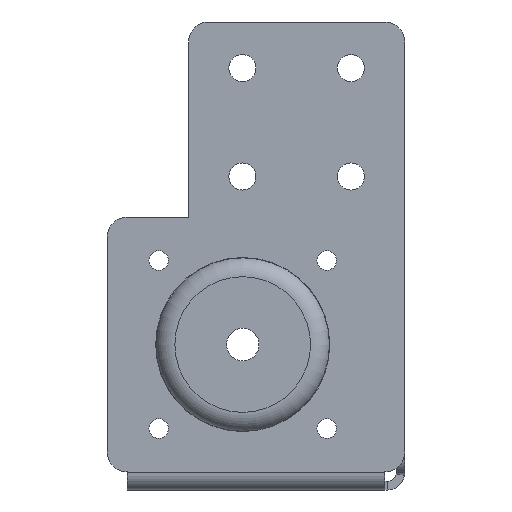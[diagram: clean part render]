
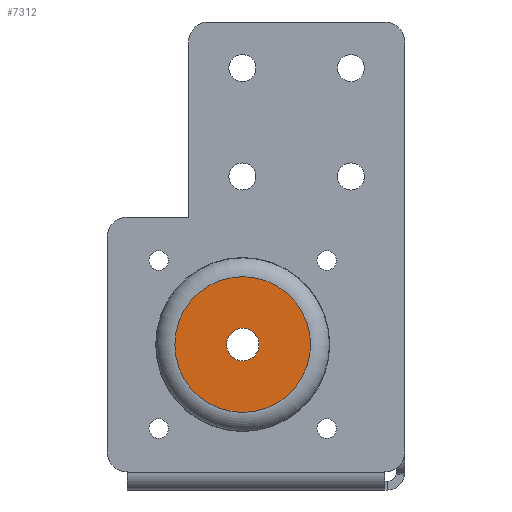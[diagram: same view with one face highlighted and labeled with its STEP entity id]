
A CAD part, left-side view. The second image highlights one B-rep face of the part: STEP entity #7312.
In plain terms, the highlighted planar face has unit normal (-1, 0, 0).
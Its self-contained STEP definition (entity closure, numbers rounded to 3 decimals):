
#7312 = ADVANCED_FACE('',(#7313,#7381),#7328,.T.);
#7313 = FACE_BOUND('',#7314,.T.);
#7314 = EDGE_LOOP('',(#7315,#7355));
#7315 = ORIENTED_EDGE('',*,*,#7316,.F.);
#7316 = EDGE_CURVE('',#7317,#7319,#7321,.T.);
#7317 = VERTEX_POINT('',#7318);
#7318 = CARTESIAN_POINT('',(-14.2,74.6,39.347));
#7319 = VERTEX_POINT('',#7320);
#7320 = CARTESIAN_POINT('',(-14.2,74.6,14.313));
#7321 = SURFACE_CURVE('',#7322,(#7327,#7343),.PCURVE_S1.);
#7322 = CIRCLE('',#7323,12.517);
#7323 = AXIS2_PLACEMENT_3D('',#7324,#7325,#7326);
#7324 = CARTESIAN_POINT('',(-14.2,74.6,26.83));
#7325 = DIRECTION('',(1.,0.,0.));
#7326 = DIRECTION('',(0.,0.,-1.));
#7327 = PCURVE('',#7328,#7333);
#7328 = PLANE('',#7329);
#7329 = AXIS2_PLACEMENT_3D('',#7330,#7331,#7332);
#7330 = CARTESIAN_POINT('',(-14.2,74.6,12.48));
#7331 = DIRECTION('',(-1.,0.,0.));
#7332 = DIRECTION('',(0.,0.,1.));
#7333 = DEFINITIONAL_REPRESENTATION('',(#7334),#7342);
#7334 = ( BOUNDED_CURVE() B_SPLINE_CURVE(2,(#7335,#7336,#7337,#7338,
#7339,#7340,#7341),.UNSPECIFIED.,.T.,.F.) B_SPLINE_CURVE_WITH_KNOTS((1,2
    ,2,2,2,1),(-2.094,0.,2.094,4.189,
6.283,8.378),.UNSPECIFIED.) CURVE() 
GEOMETRIC_REPRESENTATION_ITEM() RATIONAL_B_SPLINE_CURVE((1.,0.5,1.,0.5,
1.,0.5,1.)) REPRESENTATION_ITEM('') );
#7335 = CARTESIAN_POINT('',(1.833,0.));
#7336 = CARTESIAN_POINT('',(1.833,21.681));
#7337 = CARTESIAN_POINT('',(20.609,10.84));
#7338 = CARTESIAN_POINT('',(39.385,0.));
#7339 = CARTESIAN_POINT('',(20.609,-10.84));
#7340 = CARTESIAN_POINT('',(1.833,-21.681));
#7341 = CARTESIAN_POINT('',(1.833,0.));
#7342 = ( GEOMETRIC_REPRESENTATION_CONTEXT(2) 
PARAMETRIC_REPRESENTATION_CONTEXT() REPRESENTATION_CONTEXT('2D SPACE',''
  ) );
#7343 = PCURVE('',#7344,#7349);
#7344 = TOROIDAL_SURFACE('',#7345,12.517,3.6);
#7345 = AXIS2_PLACEMENT_3D('',#7346,#7347,#7348);
#7346 = CARTESIAN_POINT('',(-10.6,74.6,26.83));
#7347 = DIRECTION('',(1.,0.,0.));
#7348 = DIRECTION('',(0.,0.,-1.));
#7349 = DEFINITIONAL_REPRESENTATION('',(#7350),#7354);
#7350 = LINE('',#7351,#7352);
#7351 = CARTESIAN_POINT('',(-6.283,4.712));
#7352 = VECTOR('',#7353,1.);
#7353 = DIRECTION('',(1.,0.));
#7354 = ( GEOMETRIC_REPRESENTATION_CONTEXT(2) 
PARAMETRIC_REPRESENTATION_CONTEXT() REPRESENTATION_CONTEXT('2D SPACE',''
  ) );
#7355 = ORIENTED_EDGE('',*,*,#7356,.F.);
#7356 = EDGE_CURVE('',#7319,#7317,#7357,.T.);
#7357 = SURFACE_CURVE('',#7358,(#7363,#7374),.PCURVE_S1.);
#7358 = CIRCLE('',#7359,12.517);
#7359 = AXIS2_PLACEMENT_3D('',#7360,#7361,#7362);
#7360 = CARTESIAN_POINT('',(-14.2,74.6,26.83));
#7361 = DIRECTION('',(1.,0.,0.));
#7362 = DIRECTION('',(0.,0.,-1.));
#7363 = PCURVE('',#7328,#7364);
#7364 = DEFINITIONAL_REPRESENTATION('',(#7365),#7373);
#7365 = ( BOUNDED_CURVE() B_SPLINE_CURVE(2,(#7366,#7367,#7368,#7369,
#7370,#7371,#7372),.UNSPECIFIED.,.T.,.F.) B_SPLINE_CURVE_WITH_KNOTS((1,2
    ,2,2,2,1),(-2.094,0.,2.094,4.189,
6.283,8.378),.UNSPECIFIED.) CURVE() 
GEOMETRIC_REPRESENTATION_ITEM() RATIONAL_B_SPLINE_CURVE((1.,0.5,1.,0.5,
1.,0.5,1.)) REPRESENTATION_ITEM('') );
#7366 = CARTESIAN_POINT('',(1.833,0.));
#7367 = CARTESIAN_POINT('',(1.833,21.681));
#7368 = CARTESIAN_POINT('',(20.609,10.84));
#7369 = CARTESIAN_POINT('',(39.385,0.));
#7370 = CARTESIAN_POINT('',(20.609,-10.84));
#7371 = CARTESIAN_POINT('',(1.833,-21.681));
#7372 = CARTESIAN_POINT('',(1.833,0.));
#7373 = ( GEOMETRIC_REPRESENTATION_CONTEXT(2) 
PARAMETRIC_REPRESENTATION_CONTEXT() REPRESENTATION_CONTEXT('2D SPACE',''
  ) );
#7374 = PCURVE('',#7344,#7375);
#7375 = DEFINITIONAL_REPRESENTATION('',(#7376),#7380);
#7376 = LINE('',#7377,#7378);
#7377 = CARTESIAN_POINT('',(0.,4.712));
#7378 = VECTOR('',#7379,1.);
#7379 = DIRECTION('',(1.,0.));
#7380 = ( GEOMETRIC_REPRESENTATION_CONTEXT(2) 
PARAMETRIC_REPRESENTATION_CONTEXT() REPRESENTATION_CONTEXT('2D SPACE',''
  ) );
#7381 = FACE_BOUND('',#7382,.T.);
#7382 = EDGE_LOOP('',(#7383,#7418));
#7383 = ORIENTED_EDGE('',*,*,#7384,.T.);
#7384 = EDGE_CURVE('',#7385,#7387,#7389,.T.);
#7385 = VERTEX_POINT('',#7386);
#7386 = CARTESIAN_POINT('',(-14.2,74.6,23.83));
#7387 = VERTEX_POINT('',#7388);
#7388 = CARTESIAN_POINT('',(-14.2,74.6,29.83));
#7389 = SURFACE_CURVE('',#7390,(#7395,#7406),.PCURVE_S1.);
#7390 = CIRCLE('',#7391,3.);
#7391 = AXIS2_PLACEMENT_3D('',#7392,#7393,#7394);
#7392 = CARTESIAN_POINT('',(-14.2,74.6,26.83));
#7393 = DIRECTION('',(1.,0.,0.));
#7394 = DIRECTION('',(0.,0.,-1.));
#7395 = PCURVE('',#7328,#7396);
#7396 = DEFINITIONAL_REPRESENTATION('',(#7397),#7405);
#7397 = ( BOUNDED_CURVE() B_SPLINE_CURVE(2,(#7398,#7399,#7400,#7401,
#7402,#7403,#7404),.UNSPECIFIED.,.T.,.F.) B_SPLINE_CURVE_WITH_KNOTS((1,2
    ,2,2,2,1),(-2.094,0.,2.094,4.189,
6.283,8.378),.UNSPECIFIED.) CURVE() 
GEOMETRIC_REPRESENTATION_ITEM() RATIONAL_B_SPLINE_CURVE((1.,0.5,1.,0.5,
1.,0.5,1.)) REPRESENTATION_ITEM('') );
#7398 = CARTESIAN_POINT('',(11.35,0.));
#7399 = CARTESIAN_POINT('',(11.35,5.196));
#7400 = CARTESIAN_POINT('',(15.85,2.598));
#7401 = CARTESIAN_POINT('',(20.35,0.));
#7402 = CARTESIAN_POINT('',(15.85,-2.598));
#7403 = CARTESIAN_POINT('',(11.35,-5.196));
#7404 = CARTESIAN_POINT('',(11.35,0.));
#7405 = ( GEOMETRIC_REPRESENTATION_CONTEXT(2) 
PARAMETRIC_REPRESENTATION_CONTEXT() REPRESENTATION_CONTEXT('2D SPACE',''
  ) );
#7406 = PCURVE('',#7407,#7412);
#7407 = CYLINDRICAL_SURFACE('',#7408,3.);
#7408 = AXIS2_PLACEMENT_3D('',#7409,#7410,#7411);
#7409 = CARTESIAN_POINT('',(-14.2,74.6,26.83));
#7410 = DIRECTION('',(1.,0.,0.));
#7411 = DIRECTION('',(0.,0.,-1.));
#7412 = DEFINITIONAL_REPRESENTATION('',(#7413),#7417);
#7413 = LINE('',#7414,#7415);
#7414 = CARTESIAN_POINT('',(0.,0.));
#7415 = VECTOR('',#7416,1.);
#7416 = DIRECTION('',(1.,0.));
#7417 = ( GEOMETRIC_REPRESENTATION_CONTEXT(2) 
PARAMETRIC_REPRESENTATION_CONTEXT() REPRESENTATION_CONTEXT('2D SPACE',''
  ) );
#7418 = ORIENTED_EDGE('',*,*,#7419,.T.);
#7419 = EDGE_CURVE('',#7387,#7385,#7420,.T.);
#7420 = SURFACE_CURVE('',#7421,(#7426,#7437),.PCURVE_S1.);
#7421 = CIRCLE('',#7422,3.);
#7422 = AXIS2_PLACEMENT_3D('',#7423,#7424,#7425);
#7423 = CARTESIAN_POINT('',(-14.2,74.6,26.83));
#7424 = DIRECTION('',(1.,0.,0.));
#7425 = DIRECTION('',(0.,0.,-1.));
#7426 = PCURVE('',#7328,#7427);
#7427 = DEFINITIONAL_REPRESENTATION('',(#7428),#7436);
#7428 = ( BOUNDED_CURVE() B_SPLINE_CURVE(2,(#7429,#7430,#7431,#7432,
#7433,#7434,#7435),.UNSPECIFIED.,.T.,.F.) B_SPLINE_CURVE_WITH_KNOTS((1,2
    ,2,2,2,1),(-2.094,0.,2.094,4.189,
6.283,8.378),.UNSPECIFIED.) CURVE() 
GEOMETRIC_REPRESENTATION_ITEM() RATIONAL_B_SPLINE_CURVE((1.,0.5,1.,0.5,
1.,0.5,1.)) REPRESENTATION_ITEM('') );
#7429 = CARTESIAN_POINT('',(11.35,0.));
#7430 = CARTESIAN_POINT('',(11.35,5.196));
#7431 = CARTESIAN_POINT('',(15.85,2.598));
#7432 = CARTESIAN_POINT('',(20.35,0.));
#7433 = CARTESIAN_POINT('',(15.85,-2.598));
#7434 = CARTESIAN_POINT('',(11.35,-5.196));
#7435 = CARTESIAN_POINT('',(11.35,0.));
#7436 = ( GEOMETRIC_REPRESENTATION_CONTEXT(2) 
PARAMETRIC_REPRESENTATION_CONTEXT() REPRESENTATION_CONTEXT('2D SPACE',''
  ) );
#7437 = PCURVE('',#7407,#7438);
#7438 = DEFINITIONAL_REPRESENTATION('',(#7439),#7443);
#7439 = LINE('',#7440,#7441);
#7440 = CARTESIAN_POINT('',(-6.283,0.));
#7441 = VECTOR('',#7442,1.);
#7442 = DIRECTION('',(1.,0.));
#7443 = ( GEOMETRIC_REPRESENTATION_CONTEXT(2) 
PARAMETRIC_REPRESENTATION_CONTEXT() REPRESENTATION_CONTEXT('2D SPACE',''
  ) );
